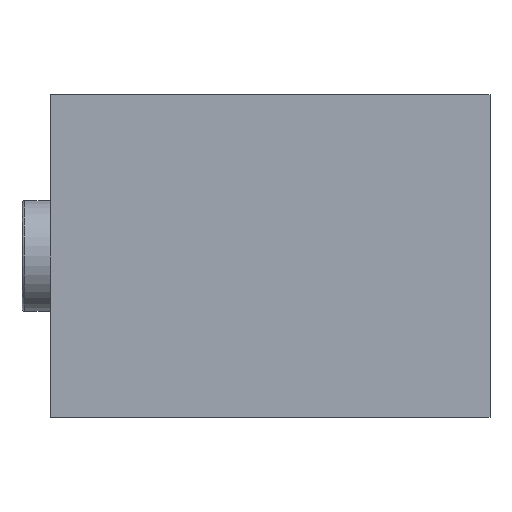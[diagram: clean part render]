
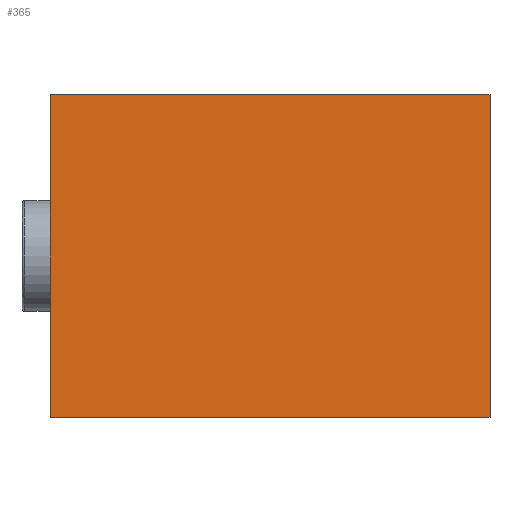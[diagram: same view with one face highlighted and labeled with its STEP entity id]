
A CAD part, front view. The second image highlights one B-rep face of the part: STEP entity #365.
In plain terms, the highlighted planar face has unit normal (0, -1, 0).
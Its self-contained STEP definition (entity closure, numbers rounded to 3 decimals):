
#48 = ORIENTED_EDGE ( 'NONE', *, *, #2422, .F. ) ;
#106 = LINE ( 'NONE', #900, #2898 ) ;
#140 = ORIENTED_EDGE ( 'NONE', *, *, #628, .F. ) ;
#365 = ADVANCED_FACE ( 'NONE', ( #2500 ), #2020, .F. ) ;
#582 = VECTOR ( 'NONE', #1484, 1000. ) ;
#628 = EDGE_CURVE ( 'NONE', #968, #1141, #106, .T. ) ;
#900 = CARTESIAN_POINT ( 'NONE',  ( -37.5, 0., -27.5 ) ) ;
#968 = VERTEX_POINT ( 'NONE', #2222 ) ;
#991 = CARTESIAN_POINT ( 'NONE',  ( -37.5, 0., 27.5 ) ) ;
#1112 = DIRECTION ( 'NONE',  ( 0., 0., 1. ) ) ;
#1141 = VERTEX_POINT ( 'NONE', #991 ) ;
#1158 = VECTOR ( 'NONE', #2062, 1000. ) ;
#1170 = EDGE_CURVE ( 'NONE', #1141, #1210, #2945, .T. ) ;
#1210 = VERTEX_POINT ( 'NONE', #2890 ) ;
#1328 = VERTEX_POINT ( 'NONE', #1510 ) ;
#1484 = DIRECTION ( 'NONE',  ( 1., 0., 0. ) ) ;
#1510 = CARTESIAN_POINT ( 'NONE',  ( 37.5, 0., -27.5 ) ) ;
#1565 = DIRECTION ( 'NONE',  ( 0., 0., 1. ) ) ;
#1887 = ORIENTED_EDGE ( 'NONE', *, *, #1907, .F. ) ;
#1907 = EDGE_CURVE ( 'NONE', #1328, #968, #2416, .T. ) ;
#1932 = LINE ( 'NONE', #2959, #2586 ) ;
#2020 = PLANE ( 'NONE',  #2761 ) ;
#2062 = DIRECTION ( 'NONE',  ( -1., 0., 0. ) ) ;
#2222 = CARTESIAN_POINT ( 'NONE',  ( -37.5, 0., -27.5 ) ) ;
#2282 = DIRECTION ( 'NONE',  ( 0., 0., -1. ) ) ;
#2297 = CARTESIAN_POINT ( 'NONE',  ( -37.5, 0., -27.5 ) ) ;
#2416 = LINE ( 'NONE', #2297, #1158 ) ;
#2422 = EDGE_CURVE ( 'NONE', #1210, #1328, #1932, .T. ) ;
#2482 = CARTESIAN_POINT ( 'NONE',  ( 0., 0., 0. ) ) ;
#2500 = FACE_OUTER_BOUND ( 'NONE', #3014, .T. ) ;
#2586 = VECTOR ( 'NONE', #2282, 1000. ) ;
#2761 = AXIS2_PLACEMENT_3D ( 'NONE', #2482, #2964, #1565 ) ;
#2890 = CARTESIAN_POINT ( 'NONE',  ( 37.5, 0., 27.5 ) ) ;
#2898 = VECTOR ( 'NONE', #1112, 1000. ) ;
#2899 = CARTESIAN_POINT ( 'NONE',  ( -37.5, 0., 27.5 ) ) ;
#2945 = LINE ( 'NONE', #2899, #582 ) ;
#2959 = CARTESIAN_POINT ( 'NONE',  ( 37.5, 0., -27.5 ) ) ;
#2964 = DIRECTION ( 'NONE',  ( 0., 1., 0. ) ) ;
#3000 = ORIENTED_EDGE ( 'NONE', *, *, #1170, .F. ) ;
#3014 = EDGE_LOOP ( 'NONE', ( #48, #3000, #140, #1887 ) ) ;
